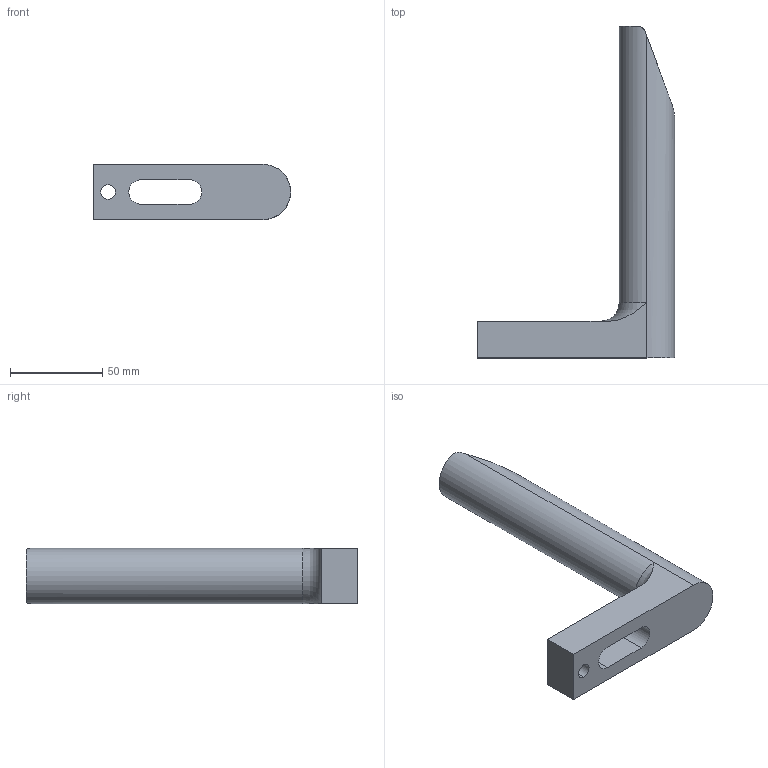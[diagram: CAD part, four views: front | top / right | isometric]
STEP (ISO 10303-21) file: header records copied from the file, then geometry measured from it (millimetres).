
FILE_DESCRIPTION(('CATIA V5 STEP Exchange'),'2;1');
FILE_NAME('C:\Users\Raffaele\Desktop\3D X SITO CF\702-705\GSB_OILLESS_M30101180\STEP-2.03\702-6.stp','2019-07-03T14:45:50+00:00',('none'),('none'),'CATIA Version 5 Release 20 GA (IN-10)','CATIA V5 STEP AP203','none');
FILE_SCHEMA(('CONFIG_CONTROL_DESIGN'));
Length unit declared in the file: millimetre
Products named in the file (1): 702-6
Bounding box: 107 x 180 x 30 mm (x, y, z)
Volume: 156929 mm3; surface area: 26989.9 mm2
Topology: 1 solids, 1 shells, 18 faces, 52 edges, 36 vertices
Faces by surface type: plane 9, cylinder 8, torus 1
Entity records: 745 total; most frequent: CARTESIAN_POINT 236, ORIENTED_EDGE 104, DIRECTION 77, EDGE_CURVE 52, VERTEX_POINT 36, AXIS2_PLACEMENT_3D 35, VECTOR 25, LINE 25
